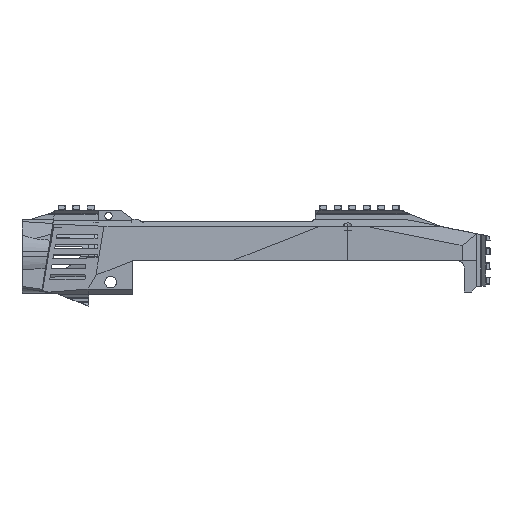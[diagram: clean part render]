
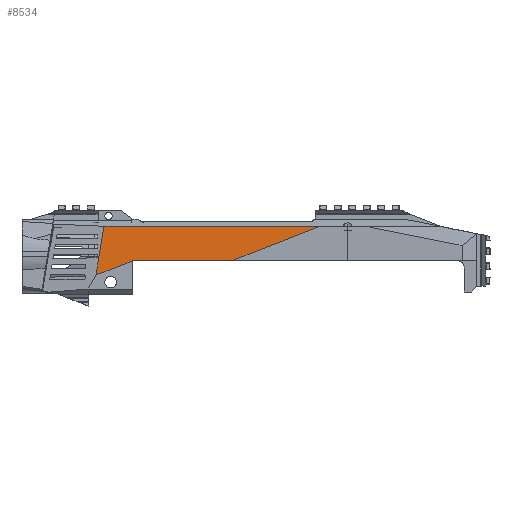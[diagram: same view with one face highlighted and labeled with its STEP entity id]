
A CAD part, left-side view. The second image highlights one B-rep face of the part: STEP entity #8534.
In plain terms, the highlighted planar face has unit normal (-0.999, 0.015, 0.037).
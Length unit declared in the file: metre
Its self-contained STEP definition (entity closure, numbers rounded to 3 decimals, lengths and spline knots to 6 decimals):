
#8534=ADVANCED_FACE('0:57632',(#25288),#25289,.T.);
#25288=FACE_OUTER_BOUND('',#73780,.T.);
#25289=PLANE('',#73781);
#73780=EDGE_LOOP('',(#138165,#138166,#138167,#138168,#138169,#138170,#138171,#138172,#138173,#138174));
#73781=AXIS2_PLACEMENT_3D('',#138175,#138176,#138177);
#138165=ORIENTED_EDGE('',*,*,#161038,.F.);
#138166=ORIENTED_EDGE('',*,*,#160813,.T.);
#138167=ORIENTED_EDGE('',*,*,#161031,.T.);
#138168=ORIENTED_EDGE('',*,*,#161039,.F.);
#138169=ORIENTED_EDGE('',*,*,#161040,.T.);
#138170=ORIENTED_EDGE('',*,*,#161041,.T.);
#138171=ORIENTED_EDGE('',*,*,#161034,.F.);
#138172=ORIENTED_EDGE('',*,*,#161037,.F.);
#138173=ORIENTED_EDGE('',*,*,#161042,.F.);
#138174=ORIENTED_EDGE('',*,*,#161043,.F.);
#138175=CARTESIAN_POINT('',(-0.5215,0.173837,0.264902));
#138176=DIRECTION('',(-0.999,0.015,0.037));
#138177=DIRECTION('',(0.015,1.,0.0));
#160813=EDGE_CURVE('0:63577',#195904,#195908,#195910,.T.);
#161031=EDGE_CURVE('0:64315',#195908,#196239,#196240,.T.);
#161034=EDGE_CURVE('0:64324',#196242,#196245,#196246,.T.);
#161037=EDGE_CURVE('0:64333',#196248,#196242,#196250,.T.);
#161038=EDGE_CURVE('0:64336',#195904,#196251,#196252,.T.);
#161039=EDGE_CURVE('0:64339',#196253,#196239,#196254,.T.);
#161040=EDGE_CURVE('0:64342',#196253,#196255,#196256,.T.);
#161041=EDGE_CURVE('0:64345',#196255,#196245,#196257,.T.);
#161042=EDGE_CURVE('0:64348',#196258,#196248,#196259,.T.);
#161043=EDGE_CURVE('0:64351',#196251,#196258,#196260,.T.);
#195904=VERTEX_POINT('',#253354);
#195908=VERTEX_POINT('',#253360);
#195910=LINE('',#253363,#253364);
#196239=VERTEX_POINT('',#253895);
#196240=LINE('',#253896,#253897);
#196242=VERTEX_POINT('',#253900);
#196245=VERTEX_POINT('',#253904);
#196246=LINE('',#253905,#253906);
#196248=VERTEX_POINT('',#253909);
#196250=LINE('',#253912,#253913);
#196251=VERTEX_POINT('',#253914);
#196252=LINE('',#253915,#253916);
#196253=VERTEX_POINT('',#253917);
#196254=LINE('',#253918,#253919);
#196255=VERTEX_POINT('',#253920);
#196256=LINE('',#253921,#253922);
#196257=LINE('',#253923,#253924);
#196258=VERTEX_POINT('',#253925);
#196259=LINE('',#253926,#253927);
#196260=LINE('',#253928,#253929);
#253354=CARTESIAN_POINT('',(-0.521494,0.241105,0.238545));
#253360=CARTESIAN_POINT('',(-0.521494,0.216128,0.248392));
#253363=CARTESIAN_POINT('',(-0.521494,0.19496,0.256738));
#253364=VECTOR('',#293206,0.01);
#253895=CARTESIAN_POINT('',(-0.521492,0.216128,0.248432));
#253896=CARTESIAN_POINT('',(-0.521183,0.216128,0.256739));
#253897=VECTOR('',#293517,0.01);
#253900=CARTESIAN_POINT('',(-0.520589,0.218028,0.271968));
#253904=CARTESIAN_POINT('',(-0.520592,0.217375,0.272146));
#253905=CARTESIAN_POINT('',(-0.52064,0.206686,0.275061));
#253906=VECTOR('',#293520,0.01);
#253909=CARTESIAN_POINT('',(-0.520582,0.218028,0.272146));
#253912=CARTESIAN_POINT('',(-0.521081,0.218028,0.258749));
#253913=VECTOR('',#293523,0.01);
#253914=CARTESIAN_POINT('',(-0.520321,0.235606,0.272236));
#253915=CARTESIAN_POINT('',(-0.521222,0.239829,0.246361));
#253916=VECTOR('',#293524,0.01);
#253917=CARTESIAN_POINT('',(-0.5225,0.14745,0.248432));
#253918=CARTESIAN_POINT('',(-0.522152,0.171199,0.248432));
#253919=VECTOR('',#293525,0.01);
#253920=CARTESIAN_POINT('',(-0.5225,0.087299,0.272146));
#253921=CARTESIAN_POINT('',(-0.5225,0.164668,0.241644));
#253922=VECTOR('',#293526,0.01);
#253923=CARTESIAN_POINT('',(-0.522009,0.120782,0.272146));
#253924=VECTOR('',#293527,0.01);
#253925=CARTESIAN_POINT('',(-0.5205,0.223624,0.272146));
#253926=CARTESIAN_POINT('',(-0.521269,0.171186,0.272146));
#253927=VECTOR('',#293528,0.01);
#253928=CARTESIAN_POINT('',(-0.521164,0.179207,0.271814));
#253929=VECTOR('',#293529,0.01);
#293206=DIRECTION('',(0.,-0.93,0.367));
#293517=DIRECTION('',(0.037,0.,0.999));
#293520=DIRECTION('',(-0.004,-0.965,0.263));
#293523=DIRECTION('',(-0.037,0.,-0.999));
#293524=DIRECTION('',(0.034,-0.161,0.986));
#293525=DIRECTION('',(0.015,1.,0.));
#293526=DIRECTION('',(0.,-0.93,0.367));
#293527=DIRECTION('',(0.015,1.,0.));
#293528=DIRECTION('',(-0.015,-1.,0.));
#293529=DIRECTION('',(-0.015,-1.,-0.007));
